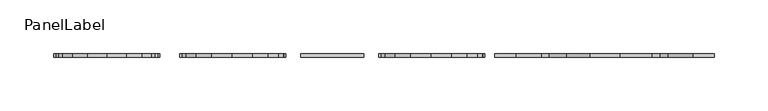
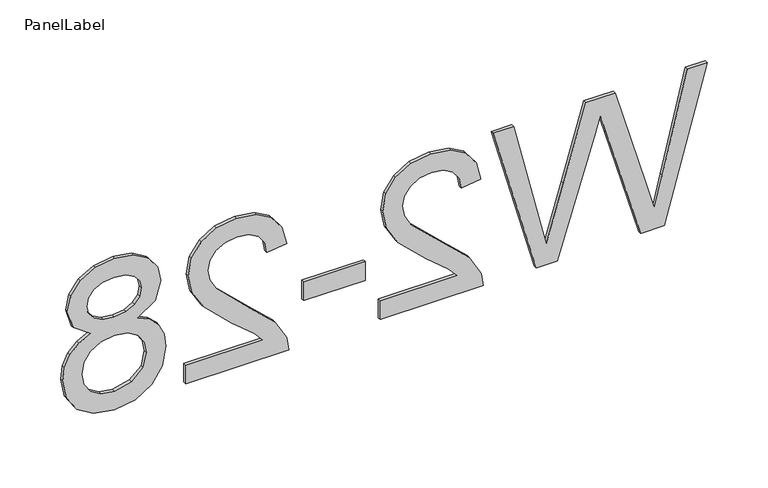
"""IFC4 building model written with IfcOpenShell, lengths in millimetres: fastener geometry, PanelLabel : Miranda."""

from ifc_helpers import new_model, si_unit, frame, origin, place, context, project, spatial, polyline, outline, extrude, source, transform, mapped, element, save


def panellabel_70b53482(model_context):
    return source(origin(), model_context, "Body", "SweptSolid", [
        extrude(outline(polyline([(1310.9113766, 268.5683654), (1460.9667612, 309.4892308), (1460.9667612, 290.1461538), (1362.3463766, 266.4069231), (1331.9030112, 259.08), (1358.8294535, 251.2401923), (1460.9667612, 221.4928846), (1460.9667612, 193.6139423), (1386.9282035, 171.9995192), (1331.9030112, 155.9169231), (1361.4671458, 148.8098077), (1460.9667612, 124.8507692), (1460.9667612, 105.5076923), (1310.9113766, 146.4651923), (1310.9113766, 166.5043269), (1426.6767612, 202.4795192), (1442.8326266, 207.4984615), (1423.3796458, 213.1401923), (1310.9113766, 245.9281731), (1310.9113766, 268.5683654)])), frame((0.0, 100.80625, 0.0), z_axis=(0.0, 1.0, 0.0), x_axis=(0.0, 0.0, 1.0)), (0.0, 0.0, 1.0), 3.175),
        extrude(outline(polyline([(1329.6682997, -2.3446154), (1310.9113766, -2.3446154), (1310.9113766, 96.1292308), (1323.8433958, 94.1143269), (1343.7543093, 82.7209615), (1365.4969535, 59.2381731), (1396.7462804, 26.8531731), (1407.5168573, 20.7809856), (1417.9943573, 18.7569231), (1427.3865569, 20.6665024), (1435.1943093, 26.3952404), (1440.4559559, 35.2012861), (1442.2098381, 46.3427885), (1440.4971698, 58.0429688), (1435.359165, 67.1329327), (1427.1988045, 72.9990505), (1416.4190689, 75.0276923), (1418.7636843, 93.7846154), (1436.9069775, 89.2373438), (1450.1595497, 79.4055288), (1458.2649583, 64.8020553), (1460.9667612, 45.9398077), (1457.9627227, 26.9401803), (1448.9506073, 12.3641827), (1435.4873862, 3.0910457), (1419.1300304, 0.0), (1401.3439247, 3.33375), (1382.9533477, 14.4157212), (1357.254165, 41.2872115), (1339.211617, 62.865), (1329.6682997, 71.3275962), (1329.6682997, -2.3446154)])), frame((0.0, 100.80625, 0.0), z_axis=(0.0, 1.0, 0.0), x_axis=(0.0, 0.0, 1.0)), (0.0, 0.0, 1.0), 3.175),
        extrude(outline(polyline([(-75.0276923, 103.98125), (-16.4123077, 103.98125), (-16.4123077, 100.80625), (-75.0276923, 100.80625), (-75.0276923, 103.98125)])), frame((0.0, 0.0, 1355.4590689), z_axis=(0.0, 0.0, 1.0), x_axis=(1.0, 0.0, 0.0)), (0.0, 0.0, 1.0), 18.7569231),
        extrude(outline(polyline([(1329.6682997, -187.5692308), (1310.9113766, -187.5692308), (1310.9113766, -89.0953846), (1323.8433958, -91.1102885), (1343.7543093, -102.5036538), (1365.4969535, -125.9864423), (1396.7462804, -158.3714423), (1407.5168573, -164.4436298), (1417.9943573, -166.4676923), (1427.3865569, -164.558113), (1435.1943093, -158.829375), (1440.4559559, -150.0233293), (1442.2098381, -138.8818269), (1440.4971698, -127.1816466), (1435.359165, -118.0916827), (1427.1988045, -112.2255649), (1416.4190689, -110.1969231), (1418.7636843, -91.44), (1436.9069775, -95.9872716), (1450.1595497, -105.8190865), (1458.2649583, -120.4225601), (1460.9667612, -139.2848077), (1457.9627227, -158.2844351), (1448.9506073, -172.8604327), (1435.4873862, -182.1335697), (1419.1300304, -185.2246154), (1401.3439247, -181.8908654), (1382.9533477, -170.8088942), (1357.254165, -143.9374038), (1339.211617, -122.3596154), (1329.6682997, -113.8970192), (1329.6682997, -187.5692308)])), frame((0.0, 100.80625, 0.0), z_axis=(0.0, 1.0, 0.0), x_axis=(0.0, 0.0, 1.0)), (0.0, 0.0, 1.0), 3.175),
        extrude(outline(polyline([(1393.5590689, -233.6555769), (1405.2088766, -216.5655288), (1423.3430112, -211.0153846), (1438.006016, -214.0377404), (1450.122915, -223.1048077), (1458.2557997, -237.199976), (1460.9667612, -255.3066346), (1458.1916891, -273.5231971), (1449.8664727, -287.8015385), (1437.557242, -297.0334615), (1422.8301266, -300.1107692), (1405.1539247, -294.6338942), (1393.5590689, -278.0200962), (1387.6105232, -289.5645793), (1378.8502708, -297.9676442), (1367.6996097, -303.0919111), (1354.5798381, -304.8), (1336.6471939, -301.4112981), (1321.828492, -291.2451923), (1311.8821939, -275.5472596), (1308.5667612, -255.5630769), (1311.8959319, -235.5788942), (1321.8834439, -219.8809615), (1336.8441049, -209.7148558), (1355.0927227, -206.3261538), (1368.7207997, -208.1029327), (1379.930992, -213.4332692), (1388.3386362, -222.0424038), (1393.5590689, -233.6555769)]), holes=[polyline([(1422.793492, -229.7723077), (1414.6056554, -231.4346034), (1408.0663766, -236.4214904), (1403.7801266, -244.5864303), (1402.3513766, -255.7828846), (1403.7709679, -266.7183173), (1408.029742, -274.7596154), (1414.3492131, -279.7052885), (1421.9508958, -281.3538462), (1429.8410761, -279.6503365), (1436.366617, -274.5398077), (1440.7490328, -266.3886058), (1442.2098381, -255.5630769), (1440.7810881, -244.6688582), (1436.4948381, -236.5313942), (1430.2120016, -231.4620793), (1422.793492, -229.7723077)]), polyline([(1355.7521458, -225.0830769), (1341.6295016, -228.2153365), (1331.060415, -239.2973077), (1327.3236843, -255.7096154), (1329.2882155, -268.4767788), (1335.1818093, -278.0567308), (1344.1069174, -284.0464904), (1355.165992, -286.0430769), (1366.4128189, -283.9823798), (1375.5348381, -277.8002885), (1381.5795497, -268.0005288), (1383.5944535, -255.0868269), (1381.6070256, -242.4982572), (1375.644742, -233.0144712), (1366.6967372, -227.0659255), (1355.7521458, -225.0830769)])]), frame((0.0, 100.80625, 0.0), z_axis=(0.0, 1.0, 0.0), x_axis=(0.0, 0.0, 1.0)), (0.0, 0.0, 1.0), 3.175),
    ])


if __name__ == "__main__":
    model = new_model("IFC4")
    model_context = context("Model", 3, world=origin())
    ifc_project = project(units=[si_unit("LENGTHUNIT", "METRE", prefix="MILLI")], contexts=[model_context])
    site = spatial("IfcSite", under=ifc_project)
    building = spatial("IfcBuilding", under=site)
    placement = place(None, origin())
    panellabel_shape = panellabel_70b53482(model_context)
    element("IfcFastener", 1, ObjectType="PanelLabel : Miranda", at=placement, inside=building, context=model_context, shape_type="MappedRepresentation", body=[
        mapped(panellabel_shape, transform((0.0, 0.0, 0.0), x_axis=(1.0, 0.0, 0.0), y_axis=(0.0, 1.0, 0.0), z_axis=(0.0, 0.0, 1.0))),
    ])
    save(model, "model.ifc")
